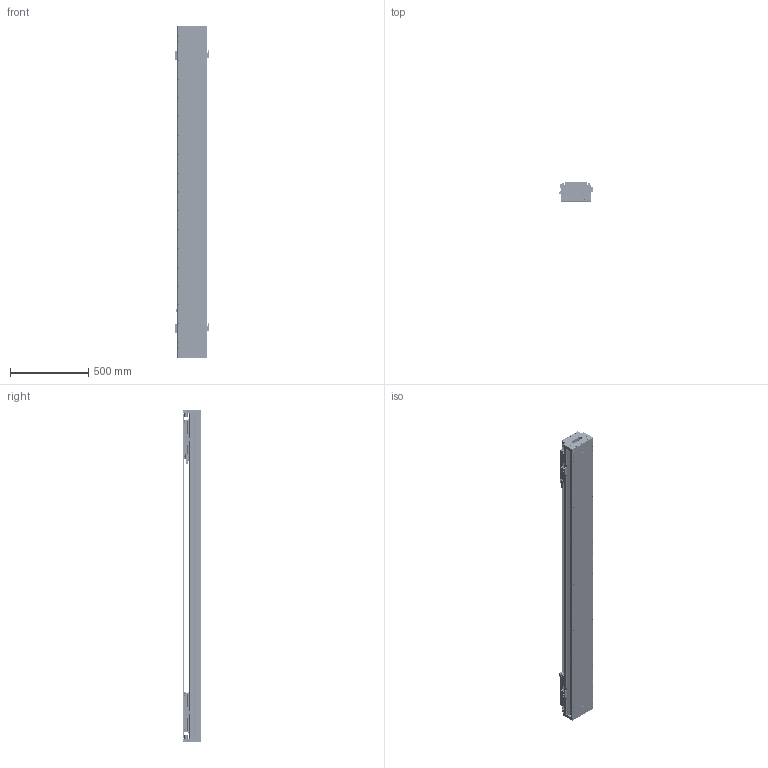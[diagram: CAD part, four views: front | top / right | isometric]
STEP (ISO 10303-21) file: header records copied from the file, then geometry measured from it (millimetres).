
FILE_DESCRIPTION (( 'STEP AP203' ), '1' );
FILE_NAME ('DKW188-2×C2-W090(T1460-L005-0.2).STEP', '2022-03-08T07:29:53', ( '微软用户' ), ( '微软中国' ), 'SwSTEP 2.0', 'SolidWorks 2018', '' );
FILE_SCHEMA (( 'CONFIG_CONTROL_DESIGN' ));
Length unit declared in the file: millimetre
Products named in the file (27): RUS嫖掑喜; DKW188 单轴模组-拉钢带组件; CKMA01-W090-TRLxxx; Ru2; DKW168-HYB-00 賑輸揤啣; 11500-0001-010-00 賑怢啣; CKM02-W090-C1C2-TP-3.0 珨极萇儂; pm-y65; 11899-0001-003-00 傷啣; DKW168-HXJ-ZJ-00 笢潔滅袉砎蝶; 10980-0001-003-00 嫖萇羲壽嘐隅釱; DKW168-HXJ-00 遣喳砎蝶; DKW-GYP-ZJ-00 笢潔嫖萇覜茼え; 嫖萇羲壽蚾饜极; 11899-0001-004-00 詩湍嶺輸; DKW-KGZ-ZJ-00 中间光电开关支架; 嫖萇羲壽蚾饜极A; 11899-0001-005-00 詩湍揤輸; 11899-0001-001-00 菁釱; EE_SX674A; DKW-SG-GYP-H-00 嫖萇覜茼え; 11899-0001-006-00 嶺輸菜輸; SSR25-DG; DKW188-2×C2-W090(T1460-L005-0.2); DKW168-RU-DTJ-00 RU2黍杅芛盓殤; 11899-0001-002-00 詩湍裔啣; SSR25XW1UUC1
Assembly tree (53 placements, depth 3):
  DKW188-2×C2-W090(T1460-L005-0.2)
    11899-0001-001-00 菁釱
    SSR25-DG  x2
    SSR25XW1UUC1  x8
    CKMA01-W090-TRLxxx
    11500-0001-010-00 賑怢啣  x2
    DKW188 单轴模组-拉钢带组件
      11899-0001-003-00 傷啣  x2
      DKW168-HXJ-00 遣喳砎蝶  x4
      11899-0001-004-00 詩湍嶺輸  x2
      11899-0001-005-00 詩湍揤輸  x2
      11899-0001-006-00 嶺輸菜輸  x2
      11899-0001-002-00 詩湍裔啣
    DKW168-HYB-00 賑輸揤啣  x4
    嫖萇羲壽蚾饜极
      pm-y65  x2
      10980-0001-003-00 嫖萇羲壽嘐隅釱
    嫖萇羲壽蚾饜极A
      pm-y65  x2
      10980-0001-003-00 嫖萇羲壽嘐隅釱
    DKW-SG-GYP-H-00 嫖萇覜茼え  x2
    DKW168-RU-DTJ-00 RU2黍杅芛盓殤  x2
    RUS嫖掑喜
    Ru2  x2
    CKM02-W090-C1C2-TP-3.0 珨极萇儂  x2
    DKW168-HXJ-ZJ-00 笢潔滅袉砎蝶
    DKW-GYP-ZJ-00 笢潔嫖萇覜茼え
    DKW-KGZ-ZJ-00 中间光电开关支架
    EE_SX674A
Bounding box: 222.1 x 120 x 2116 mm (x, y, z)
Volume: 18422527.4 mm3; surface area: 4295128.6 mm2
Topology: 56 solids, 154 shells, 7016 faces, 18236 edges, 11563 vertices
Faces by surface type: plane 3582, cylinder 2132, cone 752, bspline 550
Entity records: 120992 total; most frequent: CARTESIAN_POINT 40455, ORIENTED_EDGE 15883, DIRECTION 15486, EDGE_CURVE 7982, AXIS2_PLACEMENT_3D 5294, VERTEX_POINT 5214, LINE 4898, VECTOR 4898
